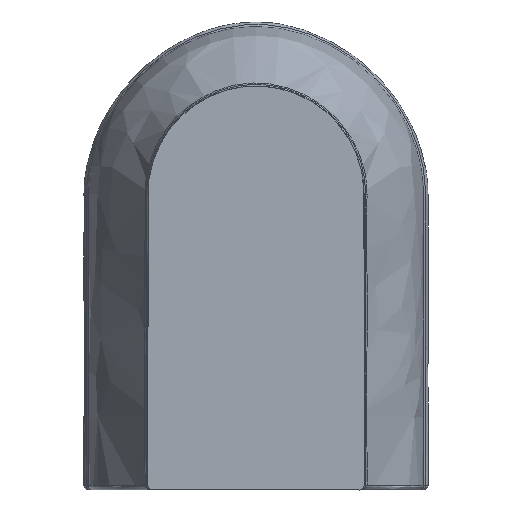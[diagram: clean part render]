
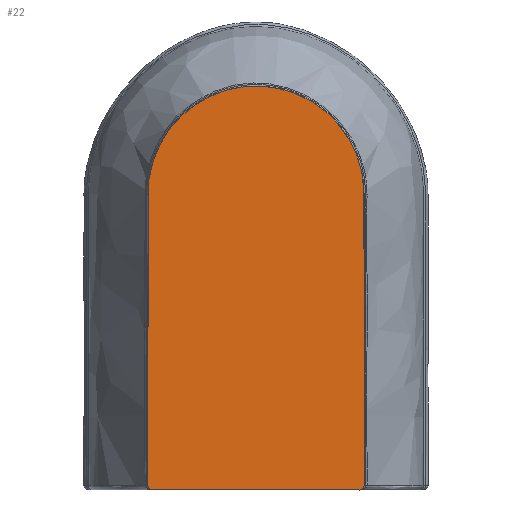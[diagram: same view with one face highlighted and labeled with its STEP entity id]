
A CAD part, front view. The second image highlights one B-rep face of the part: STEP entity #22.
In plain terms, the highlighted planar face has unit normal (0, -1, 0).
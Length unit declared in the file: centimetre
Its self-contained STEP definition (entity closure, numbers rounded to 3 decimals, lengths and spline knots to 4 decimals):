
#22=ADVANCED_FACE('',(#91),#974,.T.);
#91=FACE_OUTER_BOUND('',#158,.T.);
#158=EDGE_LOOP('',(#233,#234,#235,#236));
#233=ORIENTED_EDGE('',*,*,#534,.T.);
#234=ORIENTED_EDGE('',*,*,#528,.T.);
#235=ORIENTED_EDGE('',*,*,#529,.T.);
#236=ORIENTED_EDGE('',*,*,#530,.T.);
#528=EDGE_CURVE('',#839,#840,#677,.T.);
#529=EDGE_CURVE('',#840,#841,#769,.T.);
#530=EDGE_CURVE('',#841,#838,#678,.T.);
#534=EDGE_CURVE('',#838,#839,#772,.T.);
#677=(
BOUNDED_CURVE()
B_SPLINE_CURVE(2,(#14008,#14009,#14010),.UNSPECIFIED.,.F.,.F.)
B_SPLINE_CURVE_WITH_KNOTS((3,3),(-0.0079,0.),.UNSPECIFIED.)
CURVE()
GEOMETRIC_REPRESENTATION_ITEM()
RATIONAL_B_SPLINE_CURVE((1.,0.707,1.))
REPRESENTATION_ITEM('')
);
#678=(
BOUNDED_CURVE()
B_SPLINE_CURVE(2,(#14013,#14014,#14015),.UNSPECIFIED.,.F.,.F.)
B_SPLINE_CURVE_WITH_KNOTS((3,3),(-0.0079,0.),.UNSPECIFIED.)
CURVE()
GEOMETRIC_REPRESENTATION_ITEM()
RATIONAL_B_SPLINE_CURVE((1.,0.707,1.))
REPRESENTATION_ITEM('')
);
#769=B_SPLINE_CURVE_WITH_KNOTS('',1,(#14011,#14012),.UNSPECIFIED.,.F.,.F.,
(2,2),(-1.,0.),.UNSPECIFIED.);
#772=B_SPLINE_CURVE_WITH_KNOTS('',3,(#14164,#14165,#14166,#14167,#14168,
#14169,#14170,#14171,#14172,#14173,#14174,#14175,#14176,#14177,#14178,#14179,
#14180,#14181,#14182,#14183,#14184,#14185,#14186,#14187,#14188,#14189,#14190,
#14191,#14192,#14193,#14194,#14195,#14196,#14197,#14198,#14199,#14200,#14201,
#14202,#14203,#14204,#14205,#14206,#14207),.UNSPECIFIED.,.F.,.F.,(4,1,1,
2,1,1,1,1,1,1,1,1,1,1,1,1,1,1,1,2,1,1,1,1,1,1,1,1,1,1,1,1,1,1,1,2,1,1,4),
(-243.465,-225.7426,-199.0016,-172.2607,
-169.1027,-165.9446,-159.6286,-153.3126,
-150.1546,-146.9966,-143.8386,-140.6806,
-137.5226,-135.9435,-134.3645,-131.2065,
-128.0485,-126.4695,-124.8905,-121.7325,
-118.5745,-116.9955,-115.4165,-112.2585,
-109.1005,-107.5215,-105.9424,-102.7844,
-99.6264,-96.4684,-93.3104,-90.1524,
-83.8364,-77.5204,-74.3623,-71.2043,
-44.4634,-17.7224,0.),
 .UNSPECIFIED.);
#838=VERTEX_POINT('',#13847);
#839=VERTEX_POINT('',#13848);
#840=VERTEX_POINT('',#13849);
#841=VERTEX_POINT('',#13850);
#974=PLANE('',#1010);
#1010=AXIS2_PLACEMENT_3D('',#1902,#1019,$);
#1019=DIRECTION('',(0.,-1.,0.));
#1902=CARTESIAN_POINT('',(-0.756,-0.42,1.2669));
#13847=CARTESIAN_POINT('',(0.12,-0.42,0.1662));
#13848=CARTESIAN_POINT('',(-0.12,-0.42,0.1662));
#13849=CARTESIAN_POINT('',(-0.115,-0.42,0.1612));
#13850=CARTESIAN_POINT('',(0.115,-0.42,0.1612));
#14008=CARTESIAN_POINT('',(-0.12,-0.42,0.1662));
#14009=CARTESIAN_POINT('',(-0.12,-0.42,0.1612));
#14010=CARTESIAN_POINT('',(-0.115,-0.42,0.1612));
#14011=CARTESIAN_POINT('',(-0.115,-0.42,0.1612));
#14012=CARTESIAN_POINT('',(0.115,-0.42,0.1612));
#14013=CARTESIAN_POINT('',(0.115,-0.42,0.1612));
#14014=CARTESIAN_POINT('',(0.12,-0.42,0.1612));
#14015=CARTESIAN_POINT('',(0.12,-0.42,0.1662));
#14164=CARTESIAN_POINT('',(0.12,-0.42,0.1662));
#14165=CARTESIAN_POINT('',(0.12,-0.42,0.1938));
#14166=CARTESIAN_POINT('',(0.12,-0.42,0.2632));
#14167=CARTESIAN_POINT('',(0.12,-0.42,0.3726));
#14168=CARTESIAN_POINT('',(0.12,-0.42,0.4516));
#14169=CARTESIAN_POINT('',(0.12,-0.42,0.4945));
#14170=CARTESIAN_POINT('',(0.1195,-0.42,0.5034));
#14171=CARTESIAN_POINT('',(0.1167,-0.42,0.5203));
#14172=CARTESIAN_POINT('',(0.1101,-0.42,0.5397));
#14173=CARTESIAN_POINT('',(0.1002,-0.42,0.5568));
#14174=CARTESIAN_POINT('',(0.0907,-0.42,0.5689));
#14175=CARTESIAN_POINT('',(0.0828,-0.42,0.5771));
#14176=CARTESIAN_POINT('',(0.0742,-0.42,0.5845));
#14177=CARTESIAN_POINT('',(0.065,-0.42,0.5911));
#14178=CARTESIAN_POINT('',(0.0568,-0.42,0.5958));
#14179=CARTESIAN_POINT('',(0.0501,-0.42,0.5991));
#14180=CARTESIAN_POINT('',(0.0432,-0.42,0.6021));
#14181=CARTESIAN_POINT('',(0.0342,-0.42,0.6052));
#14182=CARTESIAN_POINT('',(0.025,-0.42,0.6075));
#14183=CARTESIAN_POINT('',(0.0174,-0.42,0.6088));
#14184=CARTESIAN_POINT('',(0.0098,-0.42,0.6097));
#14185=CARTESIAN_POINT('',(0.0039,-0.42,0.61));
#14186=CARTESIAN_POINT('',(-0.0039,-0.42,0.61));
#14187=CARTESIAN_POINT('',(-0.0098,-0.42,0.6097));
#14188=CARTESIAN_POINT('',(-0.0174,-0.42,0.6088));
#14189=CARTESIAN_POINT('',(-0.025,-0.42,0.6075));
#14190=CARTESIAN_POINT('',(-0.0342,-0.42,0.6052));
#14191=CARTESIAN_POINT('',(-0.0432,-0.42,0.6021));
#14192=CARTESIAN_POINT('',(-0.0501,-0.42,0.5991));
#14193=CARTESIAN_POINT('',(-0.0568,-0.42,0.5958));
#14194=CARTESIAN_POINT('',(-0.065,-0.42,0.5911));
#14195=CARTESIAN_POINT('',(-0.0742,-0.42,0.5845));
#14196=CARTESIAN_POINT('',(-0.0828,-0.42,0.5771));
#14197=CARTESIAN_POINT('',(-0.0907,-0.42,0.5689));
#14198=CARTESIAN_POINT('',(-0.1002,-0.42,0.5568));
#14199=CARTESIAN_POINT('',(-0.1101,-0.42,0.5397));
#14200=CARTESIAN_POINT('',(-0.1167,-0.42,0.5203));
#14201=CARTESIAN_POINT('',(-0.1195,-0.42,0.5034));
#14202=CARTESIAN_POINT('',(-0.12,-0.42,0.4945));
#14203=CARTESIAN_POINT('',(-0.12,-0.42,0.4516));
#14204=CARTESIAN_POINT('',(-0.12,-0.42,0.3726));
#14205=CARTESIAN_POINT('',(-0.12,-0.42,0.2632));
#14206=CARTESIAN_POINT('',(-0.12,-0.42,0.1938));
#14207=CARTESIAN_POINT('',(-0.12,-0.42,0.1662));
